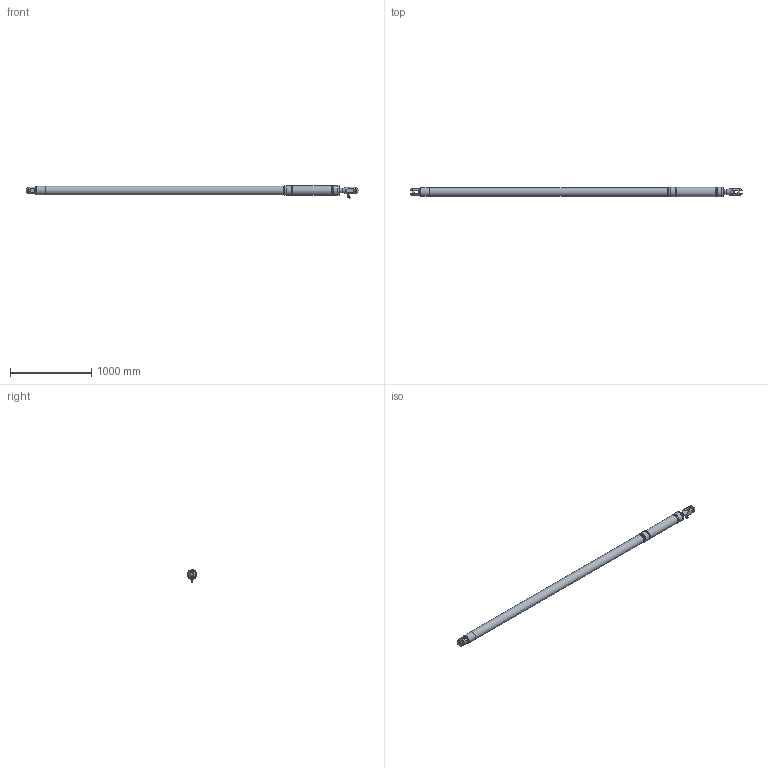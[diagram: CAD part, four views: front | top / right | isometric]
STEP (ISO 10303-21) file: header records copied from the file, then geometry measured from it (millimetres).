
FILE_DESCRIPTION(/* description */ (''),/* implementation_level */ '2;1');
FILE_NAME(/* name */ 'Q:\AA BRAND HYDRAULICS\HYDRAULICS FAMILY DIRECTORY\HYDRAULICS\CYLINDERS\VANGS\ALUMINIUM SINGLE ACTING - STAINLESS ON REQUEST (-0010 To -0150)\VSA-0060-S425-NP-71-L4000\VSA-0060-S425-NP-71-L4000 (Closed).stp',/* time_stamp */ '2018-03-28T13:56:54+01:00',/* author */ ('Lorena'),/* organization */ (''),/* preprocessor_version */ 'ST-DEVELOPER v17',/* originating_system */ 'Autodesk Inventor 2018',/* authorisation */ '');
FILE_SCHEMA (('AUTOMOTIVE_DESIGN { 1 0 10303 214 3 1 1 }'));
Length unit declared in the file: millimetre
Products named in the file (1): VSA-0060-S425-NP-71-L4000 (Closed)
Bounding box: 4077.5 x 117.4 x 154.05 mm (x, y, z)
Volume: 36320130.2 mm3; surface area: 1424774.1 mm2
Topology: 2 solids, 6 shells, 1712 faces, 4576 edges, 3025 vertices
Faces by surface type: plane 978, bspline 578, cylinder 85, cone 63, sphere 4, torus 4
Full cylindrical faces by diameter (mm): 5 x5, 7.5 x1, 8 x2, 8.1 x1, 9 x2, 10 x2, 11 x2, 14 x1, 14.35 x1, 14.662 x1, 15 x3, 15.662 x1, 16.662 x2, 18 x2, 20 x2, 21.4 x3, 25.4 x2, 26 x1, 27 x1, 28 x1, 31.75 x2, 40 x1, 42 x1, 56 x1, 99.5 x1, 100 x1, 108 x2, 112.8 x1, 114.4 x1, 117.4 x4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
Entity records: 62332 total; most frequent: CARTESIAN_POINT 21672, ORIENTED_EDGE 9136, DIRECTION 5955, EDGE_CURVE 4568, VERTEX_POINT 3026, LINE 2923, VECTOR 2923, EDGE_LOOP 1886
